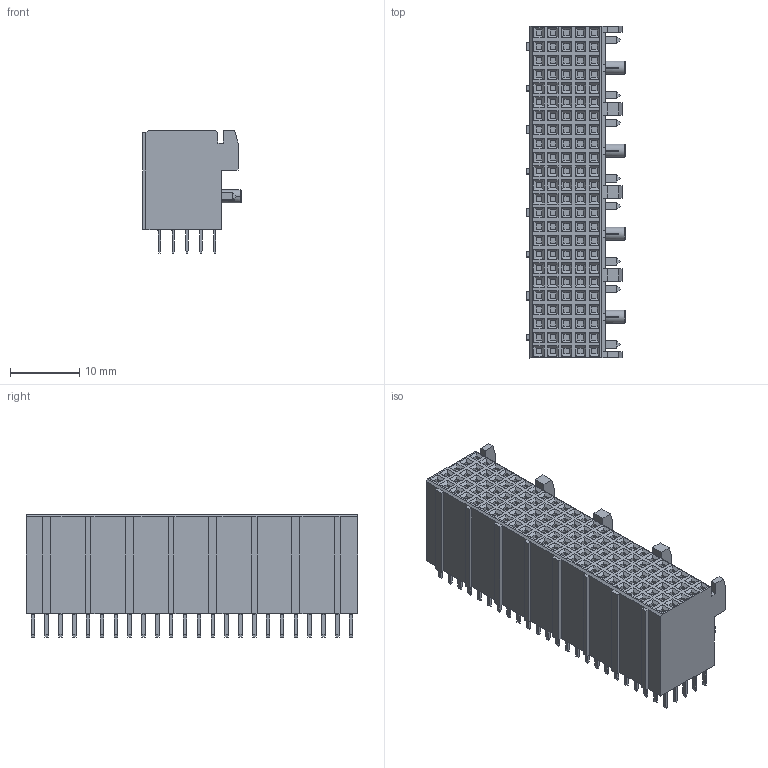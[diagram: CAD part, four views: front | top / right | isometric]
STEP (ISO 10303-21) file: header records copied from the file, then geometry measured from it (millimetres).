
FILE_DESCRIPTION (( 'STEP AP203' ), '1' );
FILE_NAME ('9111-561201C10DU.STEP', '2017-04-25T07:27:12', ( '' ), ( '' ), 'SwSTEP 2.0', 'SolidWorks 2011', '' );
FILE_SCHEMA (( 'CONFIG_CONTROL_DESIGN' ));
Products named in the file (1): 9111-561201C10DU
Bounding box: 14.3 x 47.95 x 17.75 mm (x, y, z)
Volume: 7877.2 mm3; surface area: 7466.1 mm2
Topology: 365 solids, 365 shells, 4487 faces, 10307 edges, 6698 vertices
Faces by surface type: plane 3703, cylinder 760, bspline 16, cone 8
Entity records: 124811 total; most frequent: CARTESIAN_POINT 22539, DIRECTION 20658, ORIENTED_EDGE 20614, EDGE_CURVE 10307, LINE 8660, VECTOR 8660, VERTEX_POINT 6698, AXIS2_PLACEMENT_3D 5999
